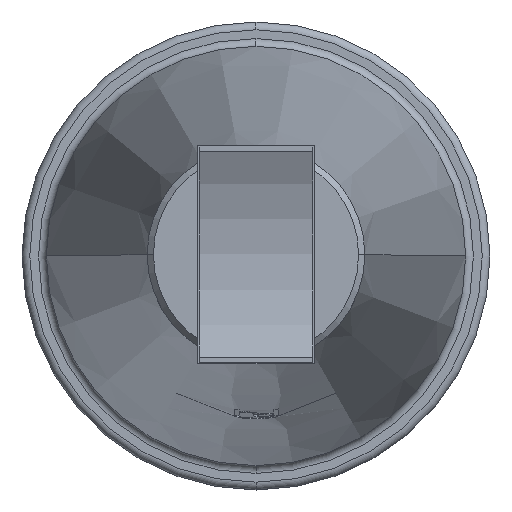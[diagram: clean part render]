
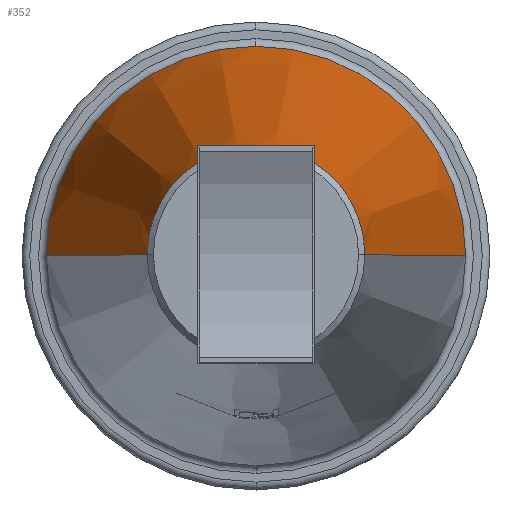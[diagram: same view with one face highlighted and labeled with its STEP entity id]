
A CAD part, top view. The second image highlights one B-rep face of the part: STEP entity #352.
In plain terms, the highlighted conical face has half-angle 7.768 degrees and reference radius 102.093 mm.
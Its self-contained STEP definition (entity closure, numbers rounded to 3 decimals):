
#352=ADVANCED_FACE('',(#705),#706,.T.);
#705=FACE_OUTER_BOUND('',#1090,.T.);
#706=CONICAL_SURFACE('',#1091,102.093,0.136);
#1090=EDGE_LOOP('',(#1917,#1918,#1919,#1920,#1921));
#1091=AXIS2_PLACEMENT_3D('',#1922,#1923,#1924);
#1917=ORIENTED_EDGE('',*,*,#2452,.T.);
#1918=ORIENTED_EDGE('',*,*,#2533,.F.);
#1919=ORIENTED_EDGE('',*,*,#2393,.F.);
#1920=ORIENTED_EDGE('',*,*,#2454,.T.);
#1921=ORIENTED_EDGE('',*,*,#2534,.T.);
#1922=CARTESIAN_POINT('',(408.211,528.029,-12.338));
#1923=DIRECTION('',(0.,0.,-1.0));
#1924=DIRECTION('',(1.0,0.,0.));
#2393=EDGE_CURVE('',#2863,#2865,#2866,.T.);
#2452=EDGE_CURVE('',#2970,#2971,#2972,.T.);
#2454=EDGE_CURVE('',#2863,#2973,#2975,.T.);
#2533=EDGE_CURVE('',#2865,#2971,#3099,.T.);
#2534=EDGE_CURVE('',#2973,#2970,#3100,.T.);
#2863=VERTEX_POINT('',#3612);
#2865=VERTEX_POINT('',#3614);
#2866=CIRCLE('',#3615,134.41);
#2970=VERTEX_POINT('',#4073);
#2971=VERTEX_POINT('',#4074);
#2972=LINE('',#4075,#4076);
#2973=VERTEX_POINT('',#4077);
#2975=LINE('',#4079,#4080);
#3099=CIRCLE('',#4564,134.41);
#3100=CIRCLE('',#4565,69.775);
#3612=CARTESIAN_POINT('',(273.801,528.029,-249.231));
#3614=CARTESIAN_POINT('',(408.211,662.439,-249.231));
#3615=AXIS2_PLACEMENT_3D('',#4887,#4888,#4889);
#4073=CARTESIAN_POINT('',(477.986,528.029,224.555));
#4074=CARTESIAN_POINT('',(542.621,528.029,-249.231));
#4075=CARTESIAN_POINT('',(510.304,528.029,-12.338));
#4076=VECTOR('',#4959,1.0);
#4077=CARTESIAN_POINT('',(338.435,528.029,224.555));
#4079=CARTESIAN_POINT('',(306.118,528.029,-12.338));
#4080=VECTOR('',#4963,1.0);
#4564=AXIS2_PLACEMENT_3D('',#5044,#5045,#5046);
#4565=AXIS2_PLACEMENT_3D('',#5047,#5048,#5049);
#4887=CARTESIAN_POINT('',(408.211,528.029,-249.231));
#4888=DIRECTION('',(0.,0.,-1.0));
#4889=DIRECTION('',(1.0,0.,0.));
#4959=DIRECTION('',(0.135,0.,-0.991));
#4963=DIRECTION('',(0.135,0.,0.991));
#5044=CARTESIAN_POINT('',(408.211,528.029,-249.231));
#5045=DIRECTION('',(0.,0.,-1.0));
#5046=DIRECTION('',(1.0,0.,0.));
#5047=CARTESIAN_POINT('',(408.211,528.029,224.555));
#5048=DIRECTION('',(0.,0.,-1.0));
#5049=DIRECTION('',(1.0,0.,0.));
